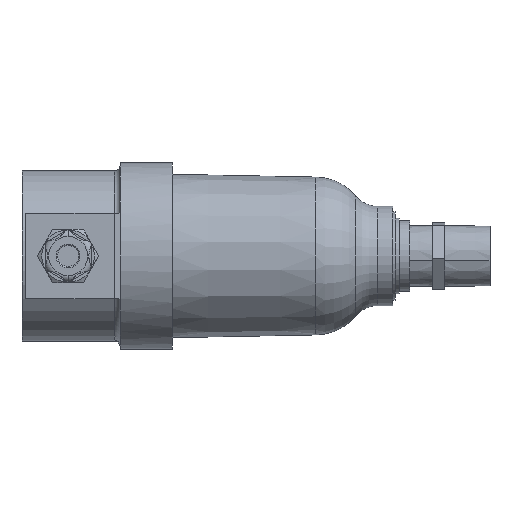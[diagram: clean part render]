
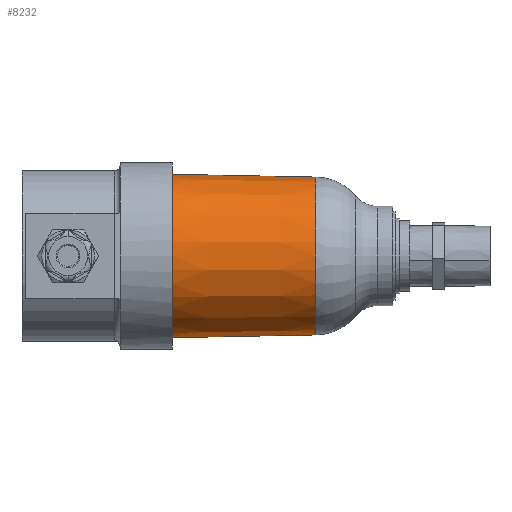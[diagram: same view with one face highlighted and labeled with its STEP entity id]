
A CAD part, left-side view. The second image highlights one B-rep face of the part: STEP entity #8232.
In plain terms, the highlighted conical face has half-angle 1.103 degrees and reference radius 35.373 mm.
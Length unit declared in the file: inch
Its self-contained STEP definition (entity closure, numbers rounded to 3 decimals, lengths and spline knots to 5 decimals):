
#63 = DIRECTION ( 'NONE',  ( 0., 1., -0.019 ) ) ;
#112 = EDGE_CURVE ( 'NONE', #12182, #22954, #19380, .T. ) ;
#2308 = AXIS2_PLACEMENT_3D ( 'NONE', #11324, #25118, #13365 ) ;
#2432 = FACE_OUTER_BOUND ( 'NONE', #3781, .T. ) ;
#3422 = VECTOR ( 'NONE', #9664, 39.37008 ) ;
#3590 = EDGE_CURVE ( 'NONE', #10218, #7507, #14794, .T. ) ;
#3775 = CIRCLE ( 'NONE', #2308, 1.39263 ) ;
#3781 = EDGE_LOOP ( 'NONE', ( #11508, #10130, #13312, #25800 ) ) ;
#4024 = VECTOR ( 'NONE', #63, 39.37008 ) ;
#4114 = EDGE_CURVE ( 'NONE', #22954, #7507, #17203, .T. ) ;
#4629 = CONICAL_SURFACE ( 'NONE', #22431, 1.39263, 0.019 ) ;
#6131 = EDGE_CURVE ( 'NONE', #12182, #10218, #3775, .T. ) ;
#7507 = VERTEX_POINT ( 'NONE', #24054 ) ;
#8232 = ADVANCED_FACE ( 'NONE', ( #2432 ), #4629, .T. ) ;
#9211 = CARTESIAN_POINT ( 'NONE',  ( 0., -2.53601, 1.39263 ) ) ;
#9664 = DIRECTION ( 'NONE',  ( 0., 1., 0.019 ) ) ;
#9864 = DIRECTION ( 'NONE',  ( 0., 0., -1. ) ) ;
#9944 = DIRECTION ( 'NONE',  ( 0., -1., 0. ) ) ;
#10038 = CARTESIAN_POINT ( 'NONE',  ( 0., 0., 0. ) ) ;
#10130 = ORIENTED_EDGE ( 'NONE', *, *, #112, .T. ) ;
#10218 = VERTEX_POINT ( 'NONE', #22496 ) ;
#11174 = CARTESIAN_POINT ( 'NONE',  ( 0., -2.53601, 0. ) ) ;
#11324 = CARTESIAN_POINT ( 'NONE',  ( 0., -2.53601, 0. ) ) ;
#11508 = ORIENTED_EDGE ( 'NONE', *, *, #6131, .F. ) ;
#12182 = VERTEX_POINT ( 'NONE', #19707 ) ;
#13226 = DIRECTION ( 'NONE',  ( 0., 1., 0. ) ) ;
#13312 = ORIENTED_EDGE ( 'NONE', *, *, #4114, .T. ) ;
#13365 = DIRECTION ( 'NONE',  ( 0., 0., 1. ) ) ;
#14794 = LINE ( 'NONE', #20473, #4024 ) ;
#16262 = AXIS2_PLACEMENT_3D ( 'NONE', #10038, #9944, #9864 ) ;
#17203 = CIRCLE ( 'NONE', #16262, 1.44146 ) ;
#19380 = LINE ( 'NONE', #9211, #3422 ) ;
#19707 = CARTESIAN_POINT ( 'NONE',  ( 0., -2.53601, 1.39263 ) ) ;
#20473 = CARTESIAN_POINT ( 'NONE',  ( 0., -2.53601, -1.39263 ) ) ;
#21705 = CARTESIAN_POINT ( 'NONE',  ( 0., 0., 1.44146 ) ) ;
#22431 = AXIS2_PLACEMENT_3D ( 'NONE', #11174, #13226, #23105 ) ;
#22496 = CARTESIAN_POINT ( 'NONE',  ( 0., -2.53601, -1.39263 ) ) ;
#22954 = VERTEX_POINT ( 'NONE', #21705 ) ;
#23105 = DIRECTION ( 'NONE',  ( 0., 0., -1. ) ) ;
#24054 = CARTESIAN_POINT ( 'NONE',  ( 0., 0., -1.44146 ) ) ;
#25118 = DIRECTION ( 'NONE',  ( 0., -1., 0. ) ) ;
#25800 = ORIENTED_EDGE ( 'NONE', *, *, #3590, .F. ) ;
